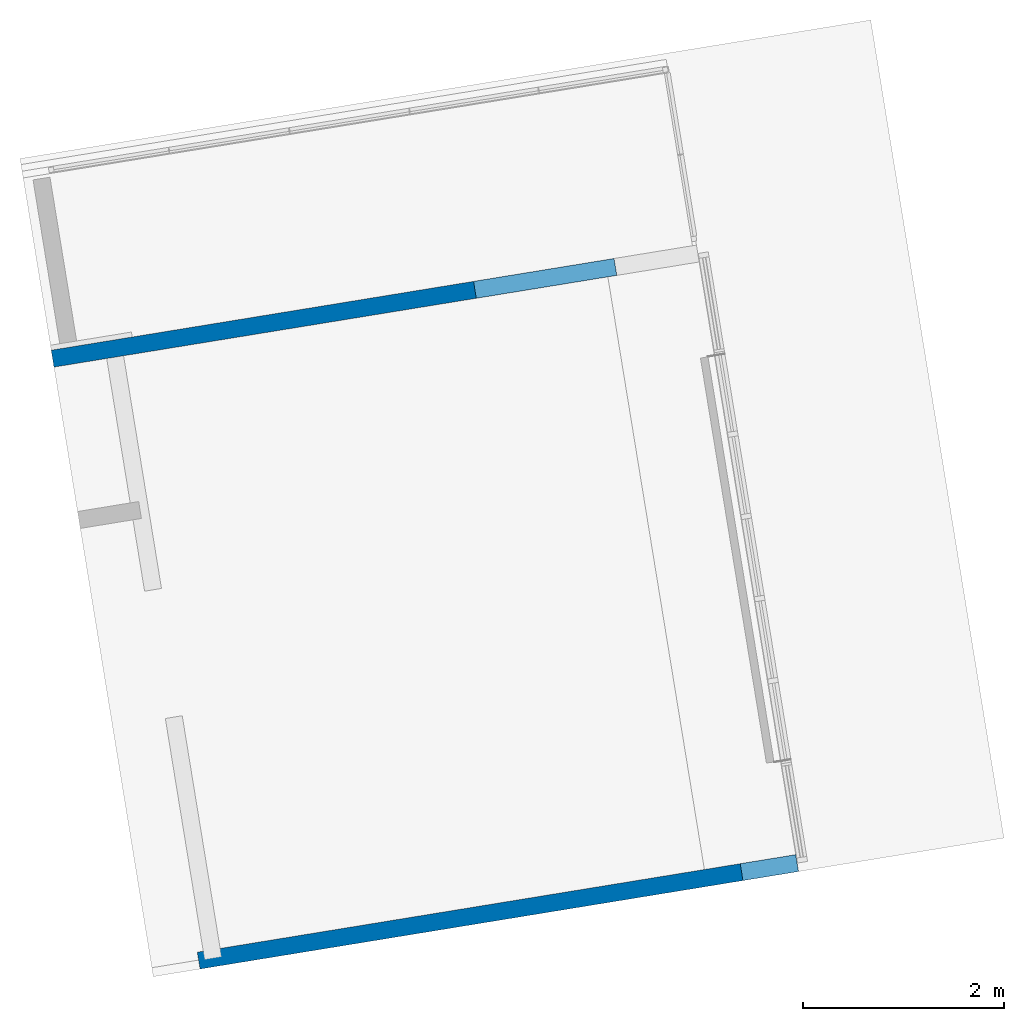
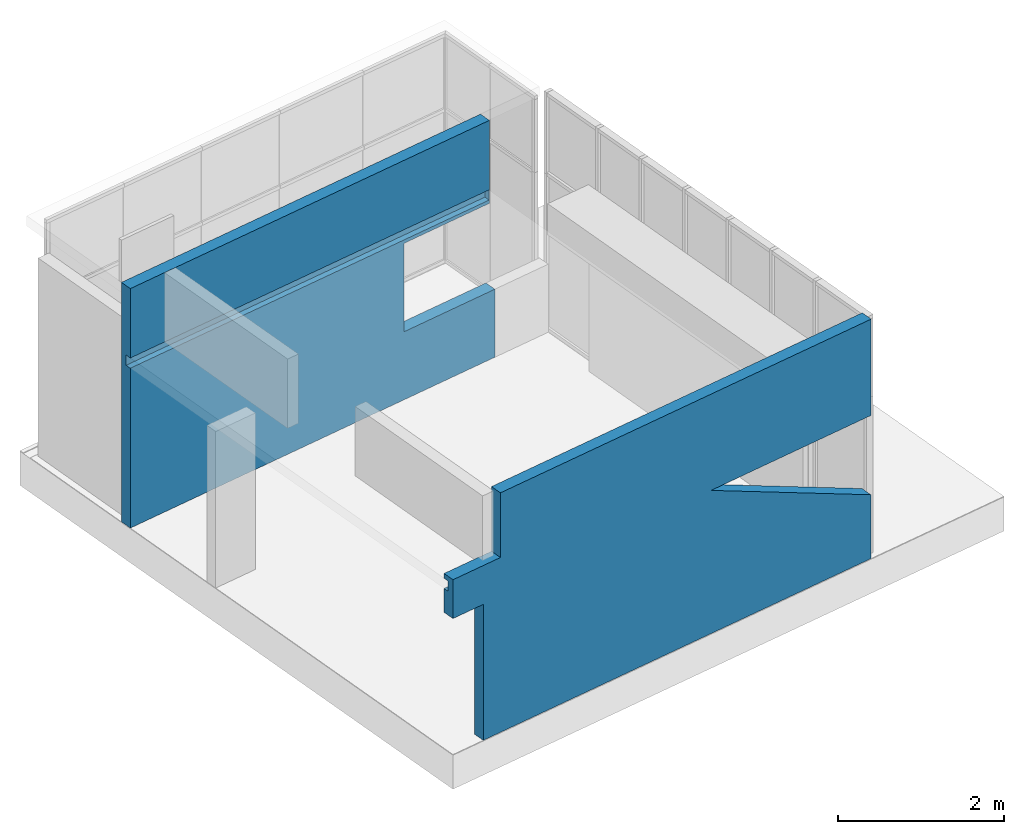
# One storey, part 13 of 13: 2 walls.
"""IFC2X3 building model written with IfcOpenShell, lengths in millimetres."""

from ifc_helpers import new_model, entity, si_unit, converted_unit, derived_unit, direction, frame, origin, origin_with_axes, place, context, subcontext, project, spatial, faceted_brep, material, layer, layer_set, type_object, element, save


model = new_model("IFC2X3")

# Units and contexts
plan_context = context("Plan", 3, precision=1e-05, world=origin_with_axes())
model_context = context("Model", 3, precision=0.01, world=origin(), true_north=direction((6.12323399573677e-17, 1.0)))
body_context = subcontext(model_context, "Body", "Model", "MODEL_VIEW")
ifc_project = project(units=[converted_unit("PLANEANGLEUNIT", "DEGREE", entity("IfcPositiveLengthMeasure", 0.0174532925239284), si_unit("PLANEANGLEUNIT", "RADIAN"), dimensions=[0, 0, 0, 0, 0, 0, 0]), si_unit("AREAUNIT", "SQUARE_METRE"), si_unit("LENGTHUNIT", "METRE", prefix="MILLI"), si_unit("MASSUNIT", "GRAM", prefix="KILO"), si_unit("POWERUNIT", "WATT"), si_unit("PRESSUREUNIT", "PASCAL", prefix="KILO"), si_unit("FORCEUNIT", "NEWTON", prefix="KILO"), si_unit("ELECTRICVOLTAGEUNIT", "VOLT"), si_unit("ELECTRICCURRENTUNIT", "AMPERE"), si_unit("THERMODYNAMICTEMPERATUREUNIT", "DEGREE_CELSIUS"), si_unit("TIMEUNIT", "SECOND"), si_unit("VOLUMEUNIT", "CUBIC_METRE"), derived_unit("LINEARVELOCITYUNIT", [(si_unit("LENGTHUNIT", "METRE"), 1), (si_unit("TIMEUNIT", "SECOND"), -1)]), derived_unit("VOLUMETRICFLOWRATEUNIT", [(si_unit("VOLUMEUNIT", "CUBIC_METRE"), 1), (si_unit("TIMEUNIT", "SECOND"), -1)]), derived_unit("THERMALTRANSMITTANCEUNIT", [(si_unit("POWERUNIT", "WATT"), 1), (si_unit("THERMODYNAMICTEMPERATUREUNIT", "KELVIN"), -1), (si_unit("AREAUNIT", "SQUARE_METRE"), -1)]), derived_unit("SOUNDPRESSUREUNIT", [(si_unit("PRESSUREUNIT", "PASCAL"), 1)])], contexts=[model_context, plan_context])

# Site, building, storey
site_placement = place(None, frame((-305029.896016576, -232111.759730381, 0.0), z_axis=(0.0, 0.0, 1.0), x_axis=(-0.160806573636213, 0.986985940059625, 0.0)))
site = spatial("IfcSite", under=ifc_project, at=site_placement, Name="Default", CompositionType="ELEMENT")
building_placement = place(site_placement, frame((0.0, 0.0, 0.0), z_axis=(0.0, 0.0, 1.0), x_axis=(1.0, -2.77555756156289e-17, 0.0)))
building = spatial("IfcBuilding", under=site, at=building_placement, Name="br001-a-200-1-0001", CompositionType="ELEMENT")
storey_placement = place(building_placement, frame((0.0, 0.0, 51360.0000000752), z_axis=(0.0, 0.0, 1.0), x_axis=(1.0, -2.77555756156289e-17, 0.0)))
storey = spatial("IfcBuildingStorey", under=building, at=storey_placement, Name="H01-Nivå D+0,36", CompositionType="ELEMENT", Elevation=51360.0000000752)

# Walls
ifc_material = material(Name="_NSW Standard")
ifc_layer = layer(ifc_material, 170.0)
ifc_layer_set = layer_set([ifc_layer], Name="Basic Wall:A242 - Standard 170")
wall_type = type_object("IfcWallType", Name="Basic Wall:A242 - Standard 170", PredefinedType="STANDARD", material=ifc_layer_set)
wall_1_placement = place(storey_placement, frame((1158388.59858442, -710256.378367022, -7.5167918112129e-08), z_axis=(0.0, 0.0, 1.0), x_axis=(2.77555756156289e-17, 1.0, 0.0)))
element("IfcWall", 1, at=wall_1_placement, inside=storey, type_object=wall_type, Name="Basic Wall:A242 - Standard 170", ObjectType="Basic Wall:A242 - Standard 170", context=body_context, shape_type="Brep", body=[
    faceted_brep([(5669.00000000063, -85.0, 3520.00000009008), (5669.00000000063, -85.0, 0.0), (0.0, -85.0, 0.0), (0.0, -85.0, 1000.0), (1415.0, -85.0, 1000.0), (1415.0, -85.0, 2300.0), (85.0, -85.0, 2300.0), (85.0, -85.0, 3520.00000009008), (0.0, 85.0, 0.0), (0.0, 85.0, 1000.0), (5669.00000000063, 85.0, 0.0), (5669.00000000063, 85.0, 3520.00000009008), (85.0, 85.0, 3520.00000009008), (1415.0, 85.0, 2300.0), (85.0, 85.0, 2300.0), (1415.0, 85.0, 1000.0), (5669.00000000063, 85.0, 2350.00000007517), (5669.00000000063, 5.0, 2350.00000007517), (90.0, 5.0, 2350.00000007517), (90.0, 85.0, 2350.00000007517), (5669.00000000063, 5.0, 2500.00000007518), (5669.00000000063, 85.0, 2500.00000007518), (90.0, 85.0, 2500.00000007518), (90.0, 5.0, 2500.00000007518)], [[[0, 1, 2, 3, 4, 5, 6, 7]], [[8, 9, 3, 2]], [[1, 10, 8, 2]], [[11, 0, 7, 12]], [[13, 14, 6, 5]], [[15, 13, 5, 4]], [[3, 9, 15, 4]], [[14, 12, 7, 6]], [[16, 17, 18, 19]], [[20, 21, 22, 23]], [[17, 20, 23, 18]], [[22, 19, 18, 23]], [[10, 16, 19, 22, 21, 11, 12, 14, 13, 15, 9, 8]], [[11, 21, 20, 17, 16, 10, 1, 0]]], orient=[[False], [False], [False], [False], [False], [False], [False], [False], [False], [False], [False], [False], [False], [False]]),
])
wall_2_placement = place(storey_placement, frame((1152248.59858442, -702769.978367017, -7.5167918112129e-08), z_axis=(0.0, 0.0, 1.0), x_axis=(-2.77555756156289e-17, -1.0, 0.0)))
element("IfcWall", 2, at=wall_2_placement, inside=storey, type_object=wall_type, Name="Basic Wall:A242 - Standard 170", ObjectType="Basic Wall:A242 - Standard 170", context=body_context, shape_type="Brep", body=[
    faceted_brep([(8321.40000000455, 85.0, 2104.99999999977), (8321.40000000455, -85.0, 2104.99999999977), (8321.40000000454, -85.0000000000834, 3520.00000009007), (8321.40000000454, 85.0000000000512, 3520.00000009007), (1817.40000000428, 84.9999999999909, 2350.00000007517), (1817.40000000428, 85.0, 1999.03757651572), (2288.40000000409, 85.0, 1999.03757651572), (2288.40000000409, 85.0, 0.0), (8316.40000000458, 85.0, -5.22959453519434e-12), (8316.40000000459, 85.0, 939.697981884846), (5830.75578104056, 85.0, 2104.99999999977), (2555.75578095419, 85.0, 3520.00000009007), (2555.75578095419, 85.0, 2569.65517244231), (1817.40000000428, 85.0, 2569.65517244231), (1817.40000000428, 84.9999999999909, 2500.00000007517), (7396.40000000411, 84.9999999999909, 2500.00000007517), (7396.40000000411, 84.9999999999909, 2350.00000007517), (1817.40000000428, -85.0, 1999.03757651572), (1817.40000000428, -85.0, 2569.65517244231), (2555.75578095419, -85.0, 2569.65517244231), (2555.75578095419, -85.0, 3520.00000009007), (5830.75578104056, -85.0, 2104.99999999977), (8316.40000000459, -85.0, 939.697981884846), (8316.40000000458, -85.0, -5.22959453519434e-12), (2288.40000000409, -85.0, 0.0), (2288.40000000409, -85.0, 1999.03757651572), (1817.40000000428, 5.00000000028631, 2500.00000007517), (1817.40000000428, 5.00000000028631, 2350.00000007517), (7396.40000000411, 5.00000000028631, 2350.00000007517), (7396.40000000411, 5.00000000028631, 2500.00000007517)], [[[0, 1, 2, 3]], [[4, 5, 6, 7, 8, 9, 10, 0, 3, 11, 12, 13, 14, 15, 16]], [[17, 18, 19, 20, 2, 1, 21, 22, 23, 24, 25]], [[23, 8, 7, 24]], [[20, 11, 3, 2]], [[26, 27, 28, 29]], [[16, 15, 29, 28]], [[27, 4, 16, 28]], [[14, 26, 29, 15]], [[10, 21, 1, 0]], [[9, 22, 21, 10]], [[8, 23, 22, 9]], [[6, 25, 24, 7]], [[5, 17, 25, 6]], [[18, 13, 12, 19]], [[11, 20, 19, 12]], [[27, 26, 14, 13, 18, 17, 5, 4]]], orient=[[False], [False], [False], [False], [False], [False], [False], [False], [False], [False], [False], [False], [False], [False], [False], [False], [False]]),
])

save(model, "model.ifc")
